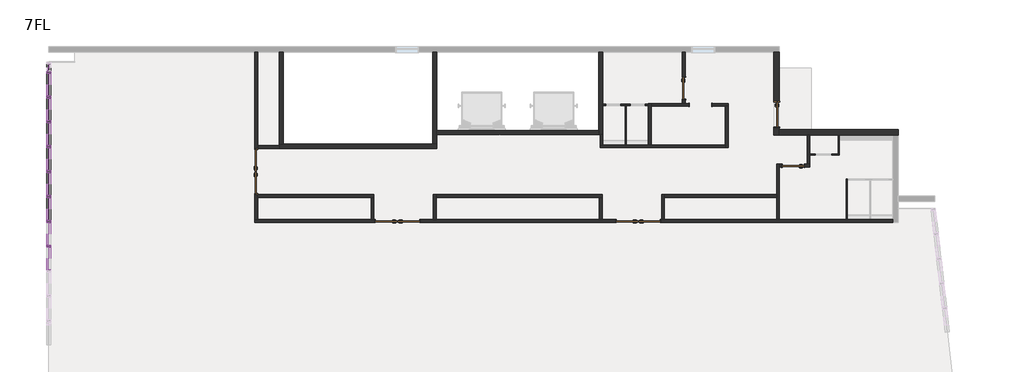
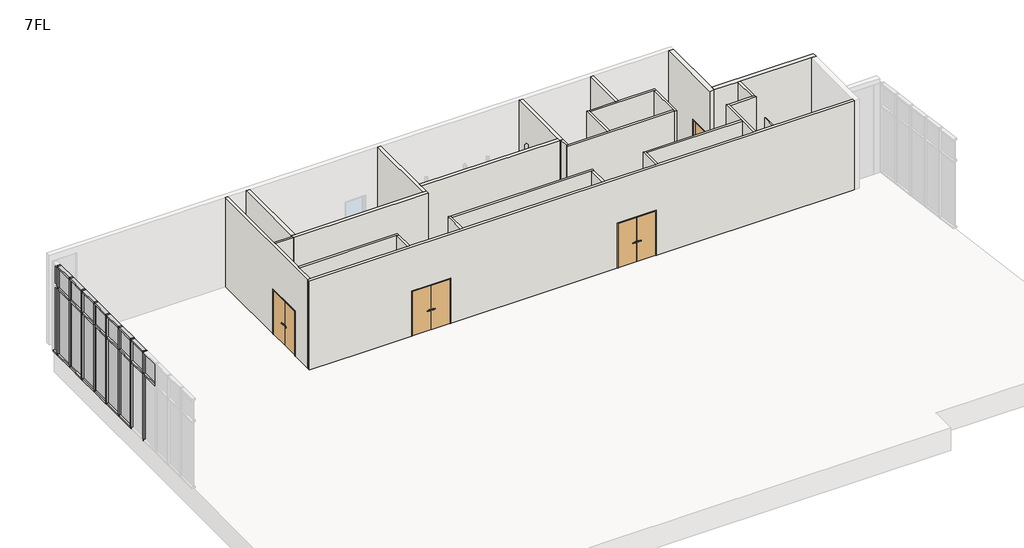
# One storey, part 3 of 4: 38 members, 31 walls, 16 plates, 7 doors.
"""IFC4 building model written with IfcOpenShell, lengths in millimetres."""

from ifc_helpers import new_model, si_unit, frame, origin, place, context, project, spatial, polyline, outline, extrude, faceted_brep, transform, mapped, element, save
from components import door_1de376c6, w800h2000_3f366617, w800h2000_fc627520, w800h2000_d76b1b72, w900h2000_8d150256, member_70x150_cdd4dcf9, member_70x150_66cf63de, member_70x150_26475b18, member_70x150_ad4265bc, member_70x150_a15bb337, plate_28587fd3, plate_396bcf3c, plate_4066ba05, plate_ba683b9a

model = new_model("IFC4")

# Units and contexts
model_context = context("Model", 3, world=origin())
ifc_project = project(units=[si_unit("LENGTHUNIT", "METRE", prefix="MILLI")], contexts=[model_context])

# Site, building, storey
site = spatial("IfcSite", under=ifc_project)
building = spatial("IfcBuilding", under=site)
storey = spatial("IfcBuildingStorey", under=building, Name="7FL", Elevation=24600.0)

# Doors
placement = place(None, origin())
door_shape = door_1de376c6(model_context)
element("IfcDoor", 1, ObjectType="両開き戸 : 両開き：w1600h2000", at=placement, inside=storey, context=model_context, shape_type="MappedRepresentation", body=[
    mapped(door_shape, transform((-21845.9784025, 12245.6585069, 24600.0), x_axis=(0.0, 1.0, 0.0), y_axis=(-1.0, 0.0, 0.0), z_axis=(0.0, 0.0, 1.0))),
])
element("IfcDoor", 2, ObjectType="両開き戸 : 両開き：w1600h2000", at=placement, inside=storey, context=model_context, shape_type="MappedRepresentation", body=[
    mapped(door_shape, transform((-16754.4500107, 10449.6868987, 24600.0), x_axis=(-1.0, 0.0, 0.0), y_axis=(0.0, -1.0, 0.0), z_axis=(0.0, 0.0, 1.0))),
])
element("IfcDoor", 3, ObjectType="両開き戸 : 両開き：w1600h2000", at=placement, inside=storey, context=model_context, shape_type="MappedRepresentation", body=[
    mapped(door_shape, transform((-8054.4500107, 10449.6868987, 24600.0), x_axis=(-1.0, 0.0, 0.0), y_axis=(0.0, -1.0, 0.0), z_axis=(0.0, 0.0, 1.0))),
])
w800h2000_shape = w800h2000_3f366617(model_context)
element("IfcDoor", 4, ObjectType="片開き戸 : w800h2000", at=placement, inside=storey, context=model_context, shape_type="MappedRepresentation", body=[
    mapped(w800h2000_shape, transform((-2445.9784025, 12449.6868987, 24600.0), x_axis=(-1.0, 0.0, 0.0), y_axis=(0.0, -1.0, 0.0), z_axis=(0.0, 0.0, 1.0))),
])
w800h2000_2_shape = w800h2000_fc627520(model_context)
element("IfcDoor", 5, ObjectType="片開き戸 : w800h2000", at=placement, inside=storey, context=model_context, shape_type="MappedRepresentation", body=[
    mapped(w800h2000_2_shape, transform((-6395.9784025, 15249.6868987, 24600.0), x_axis=(0.0, -1.0, 0.0), y_axis=(1.0, 0.0, 0.0), z_axis=(0.0, 0.0, 1.0))),
])
w800h2000_3_shape = w800h2000_d76b1b72(model_context)
element("IfcDoor", 6, ObjectType="開口枠あり : w800h2000", at=placement, inside=storey, context=model_context, shape_type="MappedRepresentation", body=[
    mapped(w800h2000_3_shape, transform((-5795.9784025, 14649.6868987, 24600.0), x_axis=(-1.0, 0.0, 0.0), y_axis=(0.0, -1.0, 0.0), z_axis=(0.0, 0.0, 1.0))),
])
w900h2000_shape = w900h2000_8d150256(model_context)
element("IfcDoor", 7, ObjectType="片開き戸 : w900h2000", at=placement, inside=storey, context=model_context, shape_type="MappedRepresentation", body=[
    mapped(w900h2000_shape, transform((-3045.9784025, 14299.6868987, 24600.0), x_axis=(0.0, -1.0, 0.0), y_axis=(1.0, 0.0, 0.0), z_axis=(0.0, 0.0, 1.0))),
])

# Members
member_70x150_shape = member_70x150_cdd4dcf9(model_context)
element("IfcMember", 8, ObjectType="長方形のマリオン : 70x150", at=placement, inside=storey, context=model_context, shape_type="MappedRepresentation", body=[
    mapped(member_70x150_shape, transform((-29345.9784025, 15834.6868987, 24600.0), x_axis=(0.0, 1.0, 0.0), y_axis=(1.0, 0.0, 0.0), z_axis=(0.0, 0.0, -1.0))),
])
element("IfcMember", 9, ObjectType="長方形のマリオン : 70x150", at=placement, inside=storey, context=model_context, shape_type="MappedRepresentation", body=[
    mapped(member_70x150_shape, transform((-29345.9784025, 14934.6868987, 24600.0), x_axis=(0.0, 1.0, 0.0), y_axis=(1.0, 0.0, 0.0), z_axis=(0.0, 0.0, -1.0))),
])
element("IfcMember", 10, ObjectType="長方形のマリオン : 70x150", at=placement, inside=storey, context=model_context, shape_type="MappedRepresentation", body=[
    mapped(member_70x150_shape, transform((-29345.9784025, 14034.6868987, 24600.0), x_axis=(0.0, 1.0, 0.0), y_axis=(1.0, 0.0, 0.0), z_axis=(0.0, 0.0, -1.0))),
])
element("IfcMember", 11, ObjectType="長方形のマリオン : 70x150", at=placement, inside=storey, context=model_context, shape_type="MappedRepresentation", body=[
    mapped(member_70x150_shape, transform((-29345.9784025, 13134.6868987, 24600.0), x_axis=(0.0, 1.0, 0.0), y_axis=(1.0, 0.0, 0.0), z_axis=(0.0, 0.0, -1.0))),
])
element("IfcMember", 12, ObjectType="長方形のマリオン : 70x150", at=placement, inside=storey, context=model_context, shape_type="MappedRepresentation", body=[
    mapped(member_70x150_shape, transform((-29345.9784025, 12234.6868987, 24600.0), x_axis=(0.0, 1.0, 0.0), y_axis=(1.0, 0.0, 0.0), z_axis=(0.0, 0.0, -1.0))),
])
element("IfcMember", 13, ObjectType="長方形のマリオン : 70x150", at=placement, inside=storey, context=model_context, shape_type="MappedRepresentation", body=[
    mapped(member_70x150_shape, transform((-29345.9784025, 11334.6868987, 24600.0), x_axis=(0.0, 1.0, 0.0), y_axis=(1.0, 0.0, 0.0), z_axis=(0.0, 0.0, -1.0))),
])
element("IfcMember", 14, ObjectType="長方形のマリオン : 70x150", at=placement, inside=storey, context=model_context, shape_type="MappedRepresentation", body=[
    mapped(member_70x150_shape, transform((-29345.9784025, 10434.6868987, 24600.0), x_axis=(0.0, 1.0, 0.0), y_axis=(1.0, 0.0, 0.0), z_axis=(0.0, 0.0, -1.0))),
])
element("IfcMember", 15, ObjectType="長方形のマリオン : 70x150", at=placement, inside=storey, context=model_context, shape_type="MappedRepresentation", body=[
    mapped(member_70x150_shape, transform((-29345.9784025, 9534.6868987, 24600.0), x_axis=(0.0, 1.0, 0.0), y_axis=(1.0, 0.0, 0.0), z_axis=(0.0, 0.0, -1.0))),
])
member_70x150_2_shape = member_70x150_66cf63de(model_context)
element("IfcMember", 16, ObjectType="長方形のマリオン : 70x150", at=placement, inside=storey, context=model_context, shape_type="MappedRepresentation", body=[
    mapped(member_70x150_2_shape, transform((-29345.9784025, 14969.6868987, 24600.0), x_axis=(0.0, 0.0, -1.0), y_axis=(1.0, 0.0, 0.0), z_axis=(0.0, -1.0, 0.0))),
])
element("IfcMember", 17, ObjectType="長方形のマリオン : 70x150", at=placement, inside=storey, context=model_context, shape_type="MappedRepresentation", body=[
    mapped(member_70x150_2_shape, transform((-29345.9784025, 14069.6868987, 24600.0), x_axis=(0.0, 0.0, -1.0), y_axis=(1.0, 0.0, 0.0), z_axis=(0.0, -1.0, 0.0))),
])
element("IfcMember", 18, ObjectType="長方形のマリオン : 70x150", at=placement, inside=storey, context=model_context, shape_type="MappedRepresentation", body=[
    mapped(member_70x150_2_shape, transform((-29345.9784025, 13169.6868987, 24600.0), x_axis=(0.0, 0.0, -1.0), y_axis=(1.0, 0.0, 0.0), z_axis=(0.0, -1.0, 0.0))),
])
element("IfcMember", 19, ObjectType="長方形のマリオン : 70x150", at=placement, inside=storey, context=model_context, shape_type="MappedRepresentation", body=[
    mapped(member_70x150_2_shape, transform((-29345.9784025, 12269.6868987, 24600.0), x_axis=(0.0, 0.0, -1.0), y_axis=(1.0, 0.0, 0.0), z_axis=(0.0, -1.0, 0.0))),
])
element("IfcMember", 20, ObjectType="長方形のマリオン : 70x150", at=placement, inside=storey, context=model_context, shape_type="MappedRepresentation", body=[
    mapped(member_70x150_2_shape, transform((-29345.9784025, 11369.6868987, 24600.0), x_axis=(0.0, 0.0, -1.0), y_axis=(1.0, 0.0, 0.0), z_axis=(0.0, -1.0, 0.0))),
])
element("IfcMember", 21, ObjectType="長方形のマリオン : 70x150", at=placement, inside=storey, context=model_context, shape_type="MappedRepresentation", body=[
    mapped(member_70x150_2_shape, transform((-29345.9784025, 10469.6868987, 24600.0), x_axis=(0.0, 0.0, -1.0), y_axis=(1.0, 0.0, 0.0), z_axis=(0.0, -1.0, 0.0))),
])
element("IfcMember", 22, ObjectType="長方形のマリオン : 70x150", at=placement, inside=storey, context=model_context, shape_type="MappedRepresentation", body=[
    mapped(member_70x150_2_shape, transform((-29345.9784025, 15799.6868987, 28600.0), x_axis=(0.0, 0.0, 1.0), y_axis=(1.0, 0.0, 0.0), z_axis=(0.0, 1.0, 0.0))),
])
element("IfcMember", 23, ObjectType="長方形のマリオン : 70x150", at=placement, inside=storey, context=model_context, shape_type="MappedRepresentation", body=[
    mapped(member_70x150_2_shape, transform((-29345.9784025, 14899.6868987, 28600.0), x_axis=(0.0, 0.0, 1.0), y_axis=(1.0, 0.0, 0.0), z_axis=(0.0, 1.0, 0.0))),
])
element("IfcMember", 24, ObjectType="長方形のマリオン : 70x150", at=placement, inside=storey, context=model_context, shape_type="MappedRepresentation", body=[
    mapped(member_70x150_2_shape, transform((-29345.9784025, 13999.6868987, 28600.0), x_axis=(0.0, 0.0, 1.0), y_axis=(1.0, 0.0, 0.0), z_axis=(0.0, 1.0, 0.0))),
])
element("IfcMember", 25, ObjectType="長方形のマリオン : 70x150", at=placement, inside=storey, context=model_context, shape_type="MappedRepresentation", body=[
    mapped(member_70x150_2_shape, transform((-29345.9784025, 13099.6868987, 28600.0), x_axis=(0.0, 0.0, 1.0), y_axis=(1.0, 0.0, 0.0), z_axis=(0.0, 1.0, 0.0))),
])
element("IfcMember", 26, ObjectType="長方形のマリオン : 70x150", at=placement, inside=storey, context=model_context, shape_type="MappedRepresentation", body=[
    mapped(member_70x150_2_shape, transform((-29345.9784025, 12199.6868987, 28600.0), x_axis=(0.0, 0.0, 1.0), y_axis=(1.0, 0.0, 0.0), z_axis=(0.0, 1.0, 0.0))),
])
element("IfcMember", 27, ObjectType="長方形のマリオン : 70x150", at=placement, inside=storey, context=model_context, shape_type="MappedRepresentation", body=[
    mapped(member_70x150_2_shape, transform((-29345.9784025, 11299.6868987, 28600.0), x_axis=(0.0, 0.0, 1.0), y_axis=(1.0, 0.0, 0.0), z_axis=(0.0, 1.0, 0.0))),
])
element("IfcMember", 28, ObjectType="長方形のマリオン : 70x150", at=placement, inside=storey, context=model_context, shape_type="MappedRepresentation", body=[
    mapped(member_70x150_2_shape, transform((-29345.9784025, 10399.6868987, 28600.0), x_axis=(0.0, 0.0, 1.0), y_axis=(1.0, 0.0, 0.0), z_axis=(0.0, 1.0, 0.0))),
])
member_70x150_3_shape = member_70x150_26475b18(model_context)
element("IfcMember", 29, ObjectType="長方形のマリオン : 70x150", at=placement, inside=storey, context=model_context, shape_type="MappedRepresentation", body=[
    mapped(member_70x150_3_shape, transform((-29345.9784025, 15834.6868987, 27600.0), x_axis=(0.0, 1.0, 0.0), y_axis=(1.0, 0.0, 0.0), z_axis=(0.0, 0.0, -1.0))),
])
element("IfcMember", 30, ObjectType="長方形のマリオン : 70x150", at=placement, inside=storey, context=model_context, shape_type="MappedRepresentation", body=[
    mapped(member_70x150_3_shape, transform((-29345.9784025, 14934.6868987, 27600.0), x_axis=(0.0, 1.0, 0.0), y_axis=(1.0, 0.0, 0.0), z_axis=(0.0, 0.0, -1.0))),
])
element("IfcMember", 31, ObjectType="長方形のマリオン : 70x150", at=placement, inside=storey, context=model_context, shape_type="MappedRepresentation", body=[
    mapped(member_70x150_3_shape, transform((-29345.9784025, 14034.6868987, 27600.0), x_axis=(0.0, 1.0, 0.0), y_axis=(1.0, 0.0, 0.0), z_axis=(0.0, 0.0, -1.0))),
])
element("IfcMember", 32, ObjectType="長方形のマリオン : 70x150", at=placement, inside=storey, context=model_context, shape_type="MappedRepresentation", body=[
    mapped(member_70x150_3_shape, transform((-29345.9784025, 13134.6868987, 27600.0), x_axis=(0.0, 1.0, 0.0), y_axis=(1.0, 0.0, 0.0), z_axis=(0.0, 0.0, -1.0))),
])
element("IfcMember", 33, ObjectType="長方形のマリオン : 70x150", at=placement, inside=storey, context=model_context, shape_type="MappedRepresentation", body=[
    mapped(member_70x150_3_shape, transform((-29345.9784025, 12234.6868987, 27600.0), x_axis=(0.0, 1.0, 0.0), y_axis=(1.0, 0.0, 0.0), z_axis=(0.0, 0.0, -1.0))),
])
element("IfcMember", 34, ObjectType="長方形のマリオン : 70x150", at=placement, inside=storey, context=model_context, shape_type="MappedRepresentation", body=[
    mapped(member_70x150_3_shape, transform((-29345.9784025, 11334.6868987, 27600.0), x_axis=(0.0, 1.0, 0.0), y_axis=(1.0, 0.0, 0.0), z_axis=(0.0, 0.0, -1.0))),
])
element("IfcMember", 35, ObjectType="長方形のマリオン : 70x150", at=placement, inside=storey, context=model_context, shape_type="MappedRepresentation", body=[
    mapped(member_70x150_3_shape, transform((-29345.9784025, 10434.6868987, 27600.0), x_axis=(0.0, 1.0, 0.0), y_axis=(1.0, 0.0, 0.0), z_axis=(0.0, 0.0, -1.0))),
])
element("IfcMember", 36, ObjectType="長方形のマリオン : 70x150", at=placement, inside=storey, context=model_context, shape_type="MappedRepresentation", body=[
    mapped(member_70x150_3_shape, transform((-29345.9784025, 9534.6868987, 27600.0), x_axis=(0.0, 1.0, 0.0), y_axis=(1.0, 0.0, 0.0), z_axis=(0.0, 0.0, -1.0))),
])
member_70x150_4_shape = member_70x150_ad4265bc(model_context)
element("IfcMember", 37, ObjectType="長方形のマリオン : 70x150", at=placement, inside=storey, context=model_context, shape_type="MappedRepresentation", body=[
    mapped(member_70x150_4_shape, transform((-29345.9784025, 12199.6868987, 27600.0), x_axis=(0.0, 0.0, 1.0), y_axis=(1.0, 0.0, 0.0), z_axis=(0.0, 1.0, 0.0))),
])
element("IfcMember", 38, ObjectType="長方形のマリオン : 70x150", at=placement, inside=storey, context=model_context, shape_type="MappedRepresentation", body=[
    mapped(member_70x150_4_shape, transform((-29345.9784025, 9499.6868987, 27600.0), x_axis=(0.0, 0.0, 1.0), y_axis=(1.0, 0.0, 0.0), z_axis=(0.0, 1.0, 0.0))),
])
element("IfcMember", 39, ObjectType="長方形のマリオン : 70x150", at=placement, inside=storey, context=model_context, shape_type="MappedRepresentation", body=[
    mapped(member_70x150_4_shape, transform((-29345.9784025, 10399.6868987, 27600.0), x_axis=(0.0, 0.0, 1.0), y_axis=(1.0, 0.0, 0.0), z_axis=(0.0, 1.0, 0.0))),
])
element("IfcMember", 40, ObjectType="長方形のマリオン : 70x150", at=placement, inside=storey, context=model_context, shape_type="MappedRepresentation", body=[
    mapped(member_70x150_4_shape, transform((-29345.9784025, 13099.6868987, 27600.0), x_axis=(0.0, 0.0, 1.0), y_axis=(1.0, 0.0, 0.0), z_axis=(0.0, 1.0, 0.0))),
])
element("IfcMember", 41, ObjectType="長方形のマリオン : 70x150", at=placement, inside=storey, context=model_context, shape_type="MappedRepresentation", body=[
    mapped(member_70x150_4_shape, transform((-29345.9784025, 13999.6868987, 27600.0), x_axis=(0.0, 0.0, 1.0), y_axis=(1.0, 0.0, 0.0), z_axis=(0.0, 1.0, 0.0))),
])
element("IfcMember", 42, ObjectType="長方形のマリオン : 70x150", at=placement, inside=storey, context=model_context, shape_type="MappedRepresentation", body=[
    mapped(member_70x150_4_shape, transform((-29345.9784025, 11299.6868987, 27600.0), x_axis=(0.0, 0.0, 1.0), y_axis=(1.0, 0.0, 0.0), z_axis=(0.0, 1.0, 0.0))),
])
element("IfcMember", 43, ObjectType="長方形のマリオン : 70x150", at=placement, inside=storey, context=model_context, shape_type="MappedRepresentation", body=[
    mapped(member_70x150_4_shape, transform((-29345.9784025, 15799.6868987, 27600.0), x_axis=(0.0, 0.0, 1.0), y_axis=(1.0, 0.0, 0.0), z_axis=(0.0, 1.0, 0.0))),
])
element("IfcMember", 44, ObjectType="長方形のマリオン : 70x150", at=placement, inside=storey, context=model_context, shape_type="MappedRepresentation", body=[
    mapped(member_70x150_4_shape, transform((-29345.9784025, 14899.6868987, 27600.0), x_axis=(0.0, 0.0, 1.0), y_axis=(1.0, 0.0, 0.0), z_axis=(0.0, 1.0, 0.0))),
])
member_70x150_5_shape = member_70x150_a15bb337(model_context)
element("IfcMember", 45, ObjectType="長方形のマリオン : 70x150", at=placement, inside=storey, context=model_context, shape_type="MappedRepresentation", body=[
    mapped(member_70x150_5_shape, transform((-29345.9784025, 15869.6868987, 24600.0), x_axis=(0.0, 0.0, -1.0), y_axis=(1.0, 0.0, 0.0), z_axis=(0.0, -1.0, 0.0))),
])

# Plates
plate_shape = plate_28587fd3(model_context)
element("IfcPlate", 46, ObjectType="システム パネル : 標準", at=placement, inside=storey, context=model_context, shape_type="MappedRepresentation", body=[
    mapped(plate_shape, transform((-29345.9784025, 10884.6868987, 24670.0), x_axis=(0.0, 1.0, 0.0), y_axis=(-1.0, 0.0, 0.0), z_axis=(0.0, 0.0, 1.0))),
])
element("IfcPlate", 47, ObjectType="システム パネル : 標準", at=placement, inside=storey, context=model_context, shape_type="MappedRepresentation", body=[
    mapped(plate_shape, transform((-29345.9784025, 11784.6868987, 24670.0), x_axis=(0.0, 1.0, 0.0), y_axis=(-1.0, 0.0, 0.0), z_axis=(0.0, 0.0, 1.0))),
])
element("IfcPlate", 48, ObjectType="システム パネル : 標準", at=placement, inside=storey, context=model_context, shape_type="MappedRepresentation", body=[
    mapped(plate_shape, transform((-29345.9784025, 12684.6868987, 24670.0), x_axis=(0.0, 1.0, 0.0), y_axis=(-1.0, 0.0, 0.0), z_axis=(0.0, 0.0, 1.0))),
])
element("IfcPlate", 49, ObjectType="システム パネル : 標準", at=placement, inside=storey, context=model_context, shape_type="MappedRepresentation", body=[
    mapped(plate_shape, transform((-29345.9784025, 13584.6868987, 24670.0), x_axis=(0.0, 1.0, 0.0), y_axis=(-1.0, 0.0, 0.0), z_axis=(0.0, 0.0, 1.0))),
])
element("IfcPlate", 50, ObjectType="システム パネル : 標準", at=placement, inside=storey, context=model_context, shape_type="MappedRepresentation", body=[
    mapped(plate_shape, transform((-29345.9784025, 14484.6868987, 24670.0), x_axis=(0.0, 1.0, 0.0), y_axis=(-1.0, 0.0, 0.0), z_axis=(0.0, 0.0, 1.0))),
])
element("IfcPlate", 51, ObjectType="システム パネル : 標準", at=placement, inside=storey, context=model_context, shape_type="MappedRepresentation", body=[
    mapped(plate_shape, transform((-29345.9784025, 15384.6868987, 24670.0), x_axis=(0.0, 1.0, 0.0), y_axis=(-1.0, 0.0, 0.0), z_axis=(0.0, 0.0, 1.0))),
])
plate_2_shape = plate_396bcf3c(model_context)
element("IfcPlate", 52, ObjectType="システム パネル : 標準", at=placement, inside=storey, context=model_context, shape_type="MappedRepresentation", body=[
    mapped(plate_2_shape, transform((-29345.9784025, 9084.6868987, 27635.0), x_axis=(0.0, 1.0, 0.0), y_axis=(-1.0, 0.0, 0.0), z_axis=(0.0, 0.0, 1.0))),
])
element("IfcPlate", 53, ObjectType="システム パネル : 標準", at=placement, inside=storey, context=model_context, shape_type="MappedRepresentation", body=[
    mapped(plate_2_shape, transform((-29345.9784025, 9984.6868987, 27635.0), x_axis=(0.0, 1.0, 0.0), y_axis=(-1.0, 0.0, 0.0), z_axis=(0.0, 0.0, 1.0))),
])
element("IfcPlate", 54, ObjectType="システム パネル : 標準", at=placement, inside=storey, context=model_context, shape_type="MappedRepresentation", body=[
    mapped(plate_2_shape, transform((-29345.9784025, 10884.6868987, 27635.0), x_axis=(0.0, 1.0, 0.0), y_axis=(-1.0, 0.0, 0.0), z_axis=(0.0, 0.0, 1.0))),
])
element("IfcPlate", 55, ObjectType="システム パネル : 標準", at=placement, inside=storey, context=model_context, shape_type="MappedRepresentation", body=[
    mapped(plate_2_shape, transform((-29345.9784025, 11784.6868987, 27635.0), x_axis=(0.0, 1.0, 0.0), y_axis=(-1.0, 0.0, 0.0), z_axis=(0.0, 0.0, 1.0))),
])
element("IfcPlate", 56, ObjectType="システム パネル : 標準", at=placement, inside=storey, context=model_context, shape_type="MappedRepresentation", body=[
    mapped(plate_2_shape, transform((-29345.9784025, 12684.6868987, 27635.0), x_axis=(0.0, 1.0, 0.0), y_axis=(-1.0, 0.0, 0.0), z_axis=(0.0, 0.0, 1.0))),
])
element("IfcPlate", 57, ObjectType="システム パネル : 標準", at=placement, inside=storey, context=model_context, shape_type="MappedRepresentation", body=[
    mapped(plate_2_shape, transform((-29345.9784025, 13584.6868987, 27635.0), x_axis=(0.0, 1.0, 0.0), y_axis=(-1.0, 0.0, 0.0), z_axis=(0.0, 0.0, 1.0))),
])
element("IfcPlate", 58, ObjectType="システム パネル : 標準", at=placement, inside=storey, context=model_context, shape_type="MappedRepresentation", body=[
    mapped(plate_2_shape, transform((-29345.9784025, 14484.6868987, 27635.0), x_axis=(0.0, 1.0, 0.0), y_axis=(-1.0, 0.0, 0.0), z_axis=(0.0, 0.0, 1.0))),
])
element("IfcPlate", 59, ObjectType="システム パネル : 標準", at=placement, inside=storey, context=model_context, shape_type="MappedRepresentation", body=[
    mapped(plate_2_shape, transform((-29345.9784025, 15384.6868987, 27635.0), x_axis=(0.0, 1.0, 0.0), y_axis=(-1.0, 0.0, 0.0), z_axis=(0.0, 0.0, 1.0))),
])
plate_3_shape = plate_4066ba05(model_context)
element("IfcPlate", 60, ObjectType="システム パネル : 標準", at=placement, inside=storey, context=model_context, shape_type="MappedRepresentation", body=[
    mapped(plate_3_shape, transform((-29345.9784025, 15999.6868987, 24670.0), x_axis=(0.0, 1.0, 0.0), y_axis=(-1.0, 0.0, 0.0), z_axis=(0.0, 0.0, 1.0))),
])
plate_4_shape = plate_ba683b9a(model_context)
element("IfcPlate", 61, ObjectType="システム パネル : 標準", at=placement, inside=storey, context=model_context, shape_type="MappedRepresentation", body=[
    mapped(plate_4_shape, transform((-29345.9784025, 15999.6868987, 27635.0), x_axis=(0.0, 1.0, 0.0), y_axis=(-1.0, 0.0, 0.0), z_axis=(0.0, 0.0, 1.0))),
])

# Walls
element("IfcWall", 62, ObjectType="標準200", at=placement, inside=storey, context=model_context, shape_type="Brep", body=[
    faceted_brep([(-3145.9784025, 16549.6868987, 24600.0), (-3145.9784025, 14774.6868987, 24600.0), (-3145.9784025, 14774.6868987, 26625.0), (-3145.9784025, 13824.6868987, 26625.0), (-3145.9784025, 13824.6868987, 24600.0), (-3145.9784025, 13549.6868987, 24600.0), (-3145.9784025, 13549.6868987, 28600.0), (-3145.9784025, 16549.6868987, 28600.0), (-2945.9784025, 14774.6868987, 26625.0), (-2945.9784025, 14774.6868987, 24600.0), (-2945.9784025, 16549.6868987, 24600.0), (-2945.9784025, 16549.6868987, 28600.0), (-2945.9784025, 13749.6868987, 28600.0), (-2945.9784025, 13549.6868987, 28600.0), (-2945.9784025, 13549.6868987, 24600.0), (-2945.9784025, 13749.6868987, 24600.0), (-2945.9784025, 13824.6868987, 24600.0), (-2945.9784025, 13824.6868987, 26625.0)], [[[0, 1, 2, 3, 4, 5, 6, 7]], [[8, 9, 10, 11, 12, 13, 14, 15, 16, 17]], [[10, 9, 1, 0]], [[16, 15, 14, 5, 4]], [[7, 6, 13, 12, 11]], [[0, 7, 11, 10]], [[6, 5, 14, 13]], [[4, 3, 17, 16]], [[2, 1, 9, 8]], [[3, 2, 8, 17]]]),
])
element("IfcWall", 63, ObjectType="標準200", at=placement, inside=storey, context=model_context, shape_type="Brep", body=[
    faceted_brep([(-2945.9784025, 13549.6868987, 24600.0), (-1945.9784025, 13549.6868987, 24600.0), (-1845.9784025, 13549.6868987, 24600.0), (-815.9784025, 13549.6868987, 24600.0), (-775.9784025, 13549.6868987, 24600.0), (1154.0215975, 13549.6868987, 24600.0), (1354.0215975, 13549.6868987, 24600.0), (1354.0215975, 13549.6868987, 28600.0), (1154.0215975, 13549.6868987, 28600.0), (-1845.9784025, 13549.6868987, 28600.0), (-1945.9784025, 13549.6868987, 28600.0), (-2945.9784025, 13549.6868987, 28600.0), (-2945.9784025, 13749.6868987, 24600.0), (-2945.9784025, 13749.6868987, 28600.0), (1354.0215975, 13749.6868987, 28600.0), (1354.0215975, 13749.6868987, 24600.0)], [[[0, 1, 2, 3, 4, 5, 6, 7, 8, 9, 10, 11]], [[12, 13, 14, 15]], [[6, 5, 4, 3, 2, 1, 0, 12, 15]], [[11, 10, 9, 8, 7, 14, 13]], [[0, 11, 13, 12]], [[7, 6, 15, 14]]]),
])
element("IfcWall", 64, ObjectType="標準150", at=placement, inside=storey, context=model_context, shape_type="Brep", body=[
    faceted_brep([(-9470.9784025, 16549.6868987, 24600.0), (-9470.9784025, 13724.6868987, 24600.0), (-9470.9784025, 13574.6868987, 24600.0), (-9470.9784025, 13574.6868987, 28600.0), (-9470.9784025, 13724.6868987, 28600.0), (-9470.9784025, 16549.6868987, 28600.0), (-9320.9784025, 16549.6868987, 24600.0), (-9320.9784025, 16549.6868987, 28600.0), (-9320.9784025, 13574.6868987, 28600.0), (-9320.9784025, 13574.6868987, 24600.0), (-9320.9784025, 14629.6868987, 24600.0), (-9320.9784025, 14669.6868987, 24600.0), (-9420.9784025, 13574.6868987, 24600.0), (-9420.9784025, 13574.6868987, 28600.0)], [[[0, 1, 2, 3, 4, 5]], [[6, 7, 8, 9, 10, 11]], [[2, 1, 0, 6, 11, 10, 9, 12]], [[5, 4, 3, 13, 8, 7]], [[0, 5, 7, 6]], [[3, 2, 12, 9, 8, 13]]]),
])
element("IfcWall", 65, ObjectType="標準150", at=placement, inside=storey, context=model_context, shape_type="SweptSolid", body=[
    extrude(outline(polyline([(-15320.9784025, 13724.6868987), (-9470.9784025, 13724.6868987), (-9470.9784025, 13574.6868987), (-15320.9784025, 13574.6868987), (-15320.9784025, 13724.6868987)])), frame((0.0, 0.0, 24600.0), z_axis=(0.0, 0.0, 1.0), x_axis=(1.0, 0.0, 0.0)), (0.0, 0.0, 1.0), 4000.0),
])
element("IfcWall", 66, ObjectType="標準150", at=placement, inside=storey, context=model_context, shape_type="Brep", body=[
    faceted_brep([(-15320.9784025, 13224.6868987, 24600.0), (-15320.9784025, 13574.6868987, 24600.0), (-15320.9784025, 13724.6868987, 24600.0), (-15320.9784025, 16549.6868987, 24600.0), (-15320.9784025, 16549.6868987, 28600.0), (-15320.9784025, 13724.6868987, 28600.0), (-15320.9784025, 13574.6868987, 28600.0), (-15320.9784025, 13224.6868987, 28600.0), (-15470.9784025, 13224.6868987, 24600.0), (-15470.9784025, 13224.6868987, 28600.0), (-15470.9784025, 16549.6868987, 28600.0), (-15470.9784025, 16549.6868987, 24600.0)], [[[0, 1, 2, 3, 4, 5, 6, 7]], [[8, 9, 10, 11]], [[3, 2, 1, 0, 8, 11]], [[7, 6, 5, 4, 10, 9]], [[4, 3, 11, 10]], [[0, 7, 9, 8]]]),
])
element("IfcWall", 67, ObjectType="標準150", at=placement, inside=storey, context=model_context, shape_type="Brep", body=[
    faceted_brep([(-15320.9784025, 13224.6868987, 24600.0), (-15470.9784025, 13224.6868987, 24600.0), (-20870.9784025, 13224.6868987, 24600.0), (-21020.9784025, 13224.6868987, 24600.0), (-21020.9784025, 13224.6868987, 28600.0), (-20870.9784025, 13224.6868987, 28600.0), (-15470.9784025, 13224.6868987, 28600.0), (-15320.9784025, 13224.6868987, 28600.0), (-15320.9784025, 13074.6868987, 24600.0), (-15320.9784025, 13074.6868987, 28600.0), (-21020.9784025, 13074.6868987, 28600.0), (-21020.9784025, 13074.6868987, 24600.0), (-21020.9784025, 13174.6868987, 24600.0), (-21020.9784025, 13174.6868987, 28600.0)], [[[0, 1, 2, 3, 4, 5, 6, 7]], [[8, 9, 10, 11]], [[3, 2, 1, 0, 8, 11, 12]], [[7, 6, 5, 4, 13, 10, 9]], [[4, 3, 12, 11, 10, 13]], [[0, 7, 9, 8]]]),
])
element("IfcWall", 68, ObjectType="標準150", at=placement, inside=storey, context=model_context, shape_type="SweptSolid", body=[
    extrude(outline(polyline([(-20870.9784025, 16549.6868987), (-20870.9784025, 13224.6868987), (-21020.9784025, 13224.6868987), (-21020.9784025, 16549.6868987), (-20870.9784025, 16549.6868987)])), frame((0.0, 0.0, 24600.0), z_axis=(0.0, 0.0, 1.0), x_axis=(1.0, 0.0, 0.0)), (0.0, 0.0, 1.0), 4000.0),
])
element("IfcWall", 69, ObjectType="標準100", at=placement, inside=storey, context=model_context, shape_type="Brep", body=[
    faceted_brep([(1154.0215975, 10499.6868987, 24600.0), (354.0215975, 10499.6868987, 24600.0), (314.0215975, 10499.6868987, 24600.0), (-485.9784025, 10499.6868987, 24600.0), (-525.9784025, 10499.6868987, 24600.0), (-2945.9784025, 10499.6868987, 24600.0), (-3045.9784025, 10499.6868987, 24600.0), (-7095.9784025, 10499.6868987, 24600.0), (-7195.9784025, 10499.6868987, 24600.0), (-7220.9784025, 10499.6868987, 24600.0), (-7220.9784025, 10499.6868987, 26625.0), (-8870.9784025, 10499.6868987, 26625.0), (-8870.9784025, 10499.6868987, 24600.0), (-9345.9784025, 10499.6868987, 24600.0), (-9445.9784025, 10499.6868987, 24600.0), (-15345.9784025, 10499.6868987, 24600.0), (-15445.9784025, 10499.6868987, 24600.0), (-15920.9784025, 10499.6868987, 24600.0), (-15920.9784025, 10499.6868987, 26625.0), (-17570.9784025, 10499.6868987, 26625.0), (-17570.9784025, 10499.6868987, 24600.0), (-17595.9784025, 10499.6868987, 24600.0), (-17695.9784025, 10499.6868987, 24600.0), (-21795.9784025, 10499.6868987, 24600.0), (-21895.9784025, 10499.6868987, 24600.0), (-21895.9784025, 10499.6868987, 28600.0), (-21795.9784025, 10499.6868987, 28600.0), (-17695.9784025, 10499.6868987, 28600.0), (-17595.9784025, 10499.6868987, 28600.0), (-15445.9784025, 10499.6868987, 28600.0), (-15345.9784025, 10499.6868987, 28600.0), (-9445.9784025, 10499.6868987, 28600.0), (-9345.9784025, 10499.6868987, 28600.0), (-7195.9784025, 10499.6868987, 28600.0), (-7095.9784025, 10499.6868987, 28600.0), (-3045.9784025, 10499.6868987, 28600.0), (-2945.9784025, 10499.6868987, 28600.0), (1154.0215975, 10499.6868987, 28600.0), (-7220.9784025, 10399.6868987, 26625.0), (-7220.9784025, 10399.6868987, 24600.0), (1154.0215975, 10399.6868987, 24600.0), (1154.0215975, 10399.6868987, 28600.0), (-21895.9784025, 10399.6868987, 28600.0), (-21895.9784025, 10399.6868987, 24600.0), (-17570.9784025, 10399.6868987, 24600.0), (-17570.9784025, 10399.6868987, 26625.0), (-15920.9784025, 10399.6868987, 26625.0), (-15920.9784025, 10399.6868987, 24600.0), (-8870.9784025, 10399.6868987, 24600.0), (-8870.9784025, 10399.6868987, 26625.0)], [[[0, 1, 2, 3, 4, 5, 6, 7, 8, 9, 10, 11, 12, 13, 14, 15, 16, 17, 18, 19, 20, 21, 22, 23, 24, 25, 26, 27, 28, 29, 30, 31, 32, 33, 34, 35, 36, 37]], [[38, 39, 40, 41, 42, 43, 44, 45, 46, 47, 48, 49]], [[44, 43, 24, 23, 22, 21, 20]], [[48, 47, 17, 16, 15, 14, 13, 12]], [[40, 39, 9, 8, 7, 6, 5, 4, 3, 2, 1, 0]], [[37, 36, 35, 34, 33, 32, 31, 30, 29, 28, 27, 26, 25, 42, 41]], [[25, 24, 43, 42]], [[0, 37, 41, 40]], [[20, 19, 45, 44]], [[18, 17, 47, 46]], [[19, 18, 46, 45]], [[12, 11, 49, 48]], [[10, 9, 39, 38]], [[11, 10, 38, 49]]]),
])
element("IfcWall", 70, ObjectType="標準100", at=placement, inside=storey, context=model_context, shape_type="Brep", body=[
    faceted_brep([(-21795.9784025, 10499.6868987, 24600.0), (-21795.9784025, 11299.6868987, 24600.0), (-21795.9784025, 11399.6868987, 24600.0), (-21795.9784025, 11412.1868987, 24600.0), (-21795.9784025, 11412.1868987, 26625.0), (-21795.9784025, 13062.1868987, 26625.0), (-21795.9784025, 13062.1868987, 24600.0), (-21795.9784025, 13074.6868987, 24600.0), (-21795.9784025, 13174.6868987, 24600.0), (-21795.9784025, 16549.6868987, 24600.0), (-21795.9784025, 16549.6868987, 28600.0), (-21795.9784025, 13174.6868987, 28600.0), (-21795.9784025, 13074.6868987, 28600.0), (-21795.9784025, 11399.6868987, 28600.0), (-21795.9784025, 11299.6868987, 28600.0), (-21795.9784025, 10499.6868987, 28600.0), (-21895.9784025, 11412.1868987, 26625.0), (-21895.9784025, 11412.1868987, 24600.0), (-21895.9784025, 10499.6868987, 24600.0), (-21895.9784025, 10499.6868987, 28600.0), (-21895.9784025, 16549.6868987, 28600.0), (-21895.9784025, 16549.6868987, 24600.0), (-21895.9784025, 13062.1868987, 24600.0), (-21895.9784025, 13062.1868987, 26625.0)], [[[0, 1, 2, 3, 4, 5, 6, 7, 8, 9, 10, 11, 12, 13, 14, 15]], [[16, 17, 18, 19, 20, 21, 22, 23]], [[22, 21, 9, 8, 7, 6]], [[18, 17, 3, 2, 1, 0]], [[15, 14, 13, 12, 11, 10, 20, 19]], [[0, 15, 19, 18]], [[10, 9, 21, 20]], [[6, 5, 23, 22]], [[4, 3, 17, 16]], [[5, 4, 16, 23]]]),
])
element("IfcWall", 71, ObjectType="標準100", at=placement, inside=storey, context=model_context, shape_type="Brep", body=[
    faceted_brep([(-2945.9784025, 10499.6868987, 24600.0), (-2945.9784025, 12399.6868987, 24600.0), (-2945.9784025, 12499.6868987, 24600.0), (-2945.9784025, 12499.6868987, 28600.0), (-2945.9784025, 12399.6868987, 28600.0), (-2945.9784025, 10499.6868987, 28600.0), (-3045.9784025, 10499.6868987, 24600.0), (-3045.9784025, 10499.6868987, 28600.0), (-3045.9784025, 11299.6868987, 28600.0), (-3045.9784025, 11399.6868987, 28600.0), (-3045.9784025, 12499.6868987, 28600.0), (-3045.9784025, 12499.6868987, 24600.0), (-3045.9784025, 11399.6868987, 24600.0), (-3045.9784025, 11299.6868987, 24600.0)], [[[0, 1, 2, 3, 4, 5]], [[6, 7, 8, 9, 10, 11, 12, 13]], [[2, 1, 0, 6, 13, 12, 11]], [[5, 4, 3, 10, 9, 8, 7]], [[0, 5, 7, 6]], [[3, 2, 11, 10]]]),
])
element("IfcWall", 72, ObjectType="標準100", at=placement, inside=storey, context=model_context, shape_type="Brep", body=[
    faceted_brep([(-7095.9784025, 10499.6868987, 24600.0), (-7095.9784025, 11299.6868987, 24600.0), (-7095.9784025, 11399.6868987, 24600.0), (-7095.9784025, 11399.6868987, 28600.0), (-7095.9784025, 11299.6868987, 28600.0), (-7095.9784025, 10499.6868987, 28600.0), (-7195.9784025, 10499.6868987, 24600.0), (-7195.9784025, 10499.6868987, 28600.0), (-7195.9784025, 11399.6868987, 28600.0), (-7195.9784025, 11399.6868987, 24600.0)], [[[0, 1, 2, 3, 4, 5]], [[6, 7, 8, 9]], [[2, 1, 0, 6, 9]], [[5, 4, 3, 8, 7]], [[0, 5, 7, 6]], [[3, 2, 9, 8]]]),
])
element("IfcWall", 73, ObjectType="標準100", at=placement, inside=storey, context=model_context, shape_type="SweptSolid", body=[
    extrude(outline(polyline([(-3045.9784025, 11299.6868987), (-7095.9784025, 11299.6868987), (-7095.9784025, 11399.6868987), (-3045.9784025, 11399.6868987), (-3045.9784025, 11299.6868987)])), frame((0.0, 0.0, 24600.0), z_axis=(0.0, 0.0, 1.0), x_axis=(1.0, 0.0, 0.0)), (0.0, 0.0, 1.0), 4000.0),
])
element("IfcWall", 74, ObjectType="標準100", at=placement, inside=storey, context=model_context, shape_type="Brep", body=[
    faceted_brep([(-15345.9784025, 10499.6868987, 24600.0), (-15345.9784025, 11299.6868987, 24600.0), (-15345.9784025, 11399.6868987, 24600.0), (-15345.9784025, 11399.6868987, 28600.0), (-15345.9784025, 11299.6868987, 28600.0), (-15345.9784025, 10499.6868987, 28600.0), (-15445.9784025, 10499.6868987, 24600.0), (-15445.9784025, 10499.6868987, 28600.0), (-15445.9784025, 11299.6868987, 28600.0), (-15445.9784025, 11349.6868987, 28600.0), (-15445.9784025, 11399.6868987, 28600.0), (-15445.9784025, 11399.6868987, 24600.0)], [[[0, 1, 2, 3, 4, 5]], [[6, 7, 8, 9, 10, 11]], [[2, 1, 0, 6, 11]], [[5, 4, 3, 10, 9, 8, 7]], [[0, 5, 7, 6]], [[3, 2, 11, 10]]]),
])
element("IfcWall", 75, ObjectType="標準100", at=placement, inside=storey, context=model_context, shape_type="Brep", body=[
    faceted_brep([(-15345.9784025, 11299.6868987, 24600.0), (-9445.9784025, 11299.6868987, 24600.0), (-9345.9784025, 11299.6868987, 24600.0), (-9345.9784025, 11299.6868987, 28600.0), (-9445.9784025, 11299.6868987, 28600.0), (-15345.9784025, 11299.6868987, 28600.0), (-15345.9784025, 11399.6868987, 24600.0), (-15345.9784025, 11399.6868987, 28600.0), (-9345.9784025, 11399.6868987, 28600.0), (-9345.9784025, 11399.6868987, 24600.0), (-9345.9784025, 11349.6868987, 28600.0)], [[[0, 1, 2, 3, 4, 5]], [[6, 7, 8, 9]], [[2, 1, 0, 6, 9]], [[5, 4, 3, 10, 8, 7]], [[0, 5, 7, 6]], [[3, 2, 9, 8, 10]]]),
])
element("IfcWall", 76, ObjectType="標準100", at=placement, inside=storey, context=model_context, shape_type="SweptSolid", body=[
    extrude(outline(polyline([(-9445.9784025, 10499.6868987), (-9445.9784025, 11299.6868987), (-9345.9784025, 11299.6868987), (-9345.9784025, 10499.6868987), (-9445.9784025, 10499.6868987)])), frame((0.0, 0.0, 24600.0), z_axis=(0.0, 0.0, 1.0), x_axis=(1.0, 0.0, 0.0)), (0.0, 0.0, 1.0), 4000.0),
])
element("IfcWall", 77, ObjectType="標準100", at=placement, inside=storey, context=model_context, shape_type="Brep", body=[
    faceted_brep([(-21795.9784025, 11299.6868987, 24600.0), (-17695.9784025, 11299.6868987, 24600.0), (-17595.9784025, 11299.6868987, 24600.0), (-17595.9784025, 11299.6868987, 28600.0), (-17695.9784025, 11299.6868987, 28600.0), (-21795.9784025, 11299.6868987, 28600.0), (-21795.9784025, 11399.6868987, 24600.0), (-21795.9784025, 11399.6868987, 28600.0), (-17595.9784025, 11399.6868987, 28600.0), (-17595.9784025, 11399.6868987, 24600.0)], [[[0, 1, 2, 3, 4, 5]], [[6, 7, 8, 9]], [[2, 1, 0, 6, 9]], [[5, 4, 3, 8, 7]], [[0, 5, 7, 6]], [[3, 2, 9, 8]]]),
])
element("IfcWall", 78, ObjectType="標準100", at=placement, inside=storey, context=model_context, shape_type="SweptSolid", body=[
    extrude(outline(polyline([(-17695.9784025, 10499.6868987), (-17695.9784025, 11299.6868987), (-17595.9784025, 11299.6868987), (-17595.9784025, 10499.6868987), (-17695.9784025, 10499.6868987)])), frame((0.0, 0.0, 24600.0), z_axis=(0.0, 0.0, 1.0), x_axis=(1.0, 0.0, 0.0)), (0.0, 0.0, 1.0), 4000.0),
])
element("IfcWall", 79, ObjectType="標準100", at=placement, inside=storey, context=model_context, shape_type="SweptSolid", body=[
    extrude(outline(polyline([(-21020.9784025, 13074.6868987), (-21795.9784025, 13074.6868987), (-21795.9784025, 13174.6868987), (-21020.9784025, 13174.6868987), (-21020.9784025, 13074.6868987)])), frame((0.0, 0.0, 24600.0), z_axis=(0.0, 0.0, 1.0), x_axis=(1.0, 0.0, 0.0)), (0.0, 0.0, 1.0), 4000.0),
])
element("IfcWall", 80, ObjectType="標準100", at=placement, inside=storey, context=model_context, shape_type="SweptSolid", body=[
    extrude(outline(polyline([(16549.6868987, 24600.0), (15674.6868987, 24600.0), (15674.6868987, 26625.0), (14824.6868987, 26625.0), (14824.6868987, 24600.0), (14699.6868987, 24600.0), (14699.6868987, 28600.0), (16549.6868987, 28600.0), (16549.6868987, 24600.0)])), frame((-6445.9784025, 0.0, 0.0), z_axis=(1.0, 0.0, 0.0), x_axis=(0.0, 1.0, 0.0)), (0.0, 0.0, 1.0), 100.0),
])
element("IfcWall", 81, ObjectType="標準100", at=placement, inside=storey, context=model_context, shape_type="Brep", body=[
    faceted_brep([(-4895.9784025, 13199.6868987, 24600.0), (-7580.9784025, 13199.6868987, 24600.0), (-7680.9784025, 13199.6868987, 24600.0), (-8480.9784025, 13199.6868987, 24600.0), (-8520.9784025, 13199.6868987, 24600.0), (-9320.9784025, 13199.6868987, 24600.0), (-9420.9784025, 13199.6868987, 24600.0), (-9420.9784025, 13199.6868987, 28600.0), (-9320.9784025, 13199.6868987, 28600.0), (-7680.9784025, 13199.6868987, 28600.0), (-7580.9784025, 13199.6868987, 28600.0), (-4895.9784025, 13199.6868987, 28600.0), (-4895.9784025, 13099.6868987, 24600.0), (-4895.9784025, 13099.6868987, 28600.0), (-9420.9784025, 13099.6868987, 28600.0), (-9420.9784025, 13099.6868987, 24600.0)], [[[0, 1, 2, 3, 4, 5, 6, 7, 8, 9, 10, 11]], [[12, 13, 14, 15]], [[6, 5, 4, 3, 2, 1, 0, 12, 15]], [[11, 10, 9, 8, 7, 14, 13]], [[0, 11, 13, 12]], [[7, 6, 15, 14]]]),
])
element("IfcWall", 82, ObjectType="標準100", at=placement, inside=storey, context=model_context, shape_type="SweptSolid", body=[
    extrude(outline(polyline([(-9320.9784025, 13574.6868987), (-9320.9784025, 13199.6868987), (-9420.9784025, 13199.6868987), (-9420.9784025, 13574.6868987), (-9320.9784025, 13574.6868987)])), frame((0.0, 0.0, 24600.0), z_axis=(0.0, 0.0, 1.0), x_axis=(1.0, 0.0, 0.0)), (0.0, 0.0, 1.0), 4000.0),
])
element("IfcWall", 83, ObjectType="標準100", at=placement, inside=storey, context=model_context, shape_type="Brep", body=[
    faceted_brep([(-7580.9784025, 13199.6868987, 24600.0), (-7580.9784025, 14599.6868987, 24600.0), (-7580.9784025, 14699.6868987, 24600.0), (-7580.9784025, 14699.6868987, 28600.0), (-7580.9784025, 14599.6868987, 28600.0), (-7580.9784025, 13199.6868987, 28600.0), (-7680.9784025, 13199.6868987, 24600.0), (-7680.9784025, 13199.6868987, 28600.0), (-7680.9784025, 14699.6868987, 28600.0), (-7680.9784025, 14699.6868987, 24600.0), (-7680.9784025, 14669.6868987, 24600.0), (-7680.9784025, 14629.6868987, 24600.0)], [[[0, 1, 2, 3, 4, 5]], [[6, 7, 8, 9, 10, 11]], [[2, 1, 0, 6, 11, 10, 9]], [[5, 4, 3, 8, 7]], [[0, 5, 7, 6]], [[3, 2, 9, 8]]]),
])
element("IfcWall", 84, ObjectType="標準100", at=placement, inside=storey, context=model_context, shape_type="Brep", body=[
    faceted_brep([(-5370.9784025, 14599.6868987, 26625.0), (-5370.9784025, 14599.6868987, 24600.0), (-4895.9784025, 14599.6868987, 24600.0), (-4795.9784025, 14599.6868987, 24600.0), (-4795.9784025, 14599.6868987, 28600.0), (-4895.9784025, 14599.6868987, 28600.0), (-7580.9784025, 14599.6868987, 28600.0), (-7580.9784025, 14599.6868987, 24600.0), (-6220.9784025, 14599.6868987, 24600.0), (-6220.9784025, 14599.6868987, 26625.0), (-4795.9784025, 14699.6868987, 24600.0), (-5370.9784025, 14699.6868987, 24600.0), (-5370.9784025, 14699.6868987, 26625.0), (-6220.9784025, 14699.6868987, 26625.0), (-6220.9784025, 14699.6868987, 24600.0), (-6345.9784025, 14699.6868987, 24600.0), (-6445.9784025, 14699.6868987, 24600.0), (-7580.9784025, 14699.6868987, 24600.0), (-7580.9784025, 14699.6868987, 28600.0), (-6445.9784025, 14699.6868987, 28600.0), (-6345.9784025, 14699.6868987, 28600.0), (-4795.9784025, 14699.6868987, 28600.0)], [[[0, 1, 2, 3, 4, 5, 6, 7, 8, 9]], [[10, 11, 12, 13, 14, 15, 16, 17, 18, 19, 20, 21]], [[8, 7, 17, 16, 15, 14]], [[3, 2, 1, 11, 10]], [[6, 5, 4, 21, 20, 19, 18]], [[4, 3, 10, 21]], [[14, 13, 9, 8]], [[12, 11, 1, 0]], [[13, 12, 0, 9]], [[6, 18, 17, 7]]]),
])
element("IfcWall", 85, ObjectType="標準100", at=placement, inside=storey, context=model_context, shape_type="Brep", body=[
    faceted_brep([(-4895.9784025, 14599.6868987, 24600.0), (-4895.9784025, 13199.6868987, 24600.0), (-4895.9784025, 13099.6868987, 24600.0), (-4895.9784025, 13099.6868987, 28600.0), (-4895.9784025, 13199.6868987, 28600.0), (-4895.9784025, 14599.6868987, 28600.0), (-4795.9784025, 14599.6868987, 24600.0), (-4795.9784025, 14599.6868987, 28600.0), (-4795.9784025, 13099.6868987, 28600.0), (-4795.9784025, 13099.6868987, 24600.0)], [[[0, 1, 2, 3, 4, 5]], [[6, 7, 8, 9]], [[2, 1, 0, 6, 9]], [[5, 4, 3, 8, 7]], [[3, 2, 9, 8]], [[0, 5, 7, 6]]]),
])
element("IfcWall", 86, ObjectType="標準100", at=placement, inside=storey, context=model_context, shape_type="Brep", body=[
    faceted_brep([(-2020.9784025, 12399.6868987, 26625.0), (-2020.9784025, 12399.6868987, 24600.0), (-1845.9784025, 12399.6868987, 24600.0), (-1845.9784025, 12399.6868987, 28600.0), (-2945.9784025, 12399.6868987, 28600.0), (-2945.9784025, 12399.6868987, 24600.0), (-2870.9784025, 12399.6868987, 24600.0), (-2870.9784025, 12399.6868987, 26625.0), (-1845.9784025, 12499.6868987, 24600.0), (-1945.9784025, 12499.6868987, 24600.0), (-2020.9784025, 12499.6868987, 24600.0), (-2020.9784025, 12499.6868987, 26625.0), (-2870.9784025, 12499.6868987, 26625.0), (-2870.9784025, 12499.6868987, 24600.0), (-2945.9784025, 12499.6868987, 24600.0), (-2945.9784025, 12499.6868987, 28600.0), (-1945.9784025, 12499.6868987, 28600.0), (-1845.9784025, 12499.6868987, 28600.0)], [[[0, 1, 2, 3, 4, 5, 6, 7]], [[8, 9, 10, 11, 12, 13, 14, 15, 16, 17]], [[6, 5, 14, 13]], [[2, 1, 10, 9, 8]], [[4, 3, 17, 16, 15]], [[3, 2, 8, 17]], [[5, 4, 15, 14]], [[13, 12, 7, 6]], [[11, 10, 1, 0]], [[12, 11, 0, 7]]]),
])
element("IfcWall", 87, ObjectType="標準100", at=placement, inside=storey, context=model_context, shape_type="Brep", body=[
    faceted_brep([(-1845.9784025, 12499.6868987, 24600.0), (-1845.9784025, 12829.6868987, 24600.0), (-1845.9784025, 12869.6868987, 24600.0), (-1845.9784025, 13549.6868987, 24600.0), (-1845.9784025, 13549.6868987, 28600.0), (-1845.9784025, 12499.6868987, 28600.0), (-1945.9784025, 12499.6868987, 24600.0), (-1945.9784025, 12499.6868987, 28600.0), (-1945.9784025, 13549.6868987, 28600.0), (-1945.9784025, 13549.6868987, 24600.0)], [[[0, 1, 2, 3, 4, 5]], [[6, 7, 8, 9]], [[3, 2, 1, 0, 6, 9]], [[5, 4, 8, 7]], [[0, 5, 7, 6]], [[4, 3, 9, 8]]]),
])
element("IfcWall", 88, ObjectType="トイレブース 40", at=placement, inside=storey, context=model_context, shape_type="SweptSolid", body=[
    extrude(outline(polyline([(-8480.9784025, 14629.6868987), (-8480.9784025, 13199.6868987), (-8520.9784025, 13199.6868987), (-8520.9784025, 14629.6868987), (-8480.9784025, 14629.6868987)])), frame((0.0, 0.0, 24600.0), z_axis=(0.0, 0.0, 1.0), x_axis=(1.0, 0.0, 0.0)), (0.0, 0.0, 1.0), 2000.0),
])
element("IfcWall", 89, ObjectType="トイレブース 40", at=placement, inside=storey, context=model_context, shape_type="Brep", body=[
    faceted_brep([(-9320.9784025, 14629.6868987, 26600.0), (-9320.9784025, 14629.6868987, 24600.0), (-9223.4784025, 14629.6868987, 24600.0), (-9223.4784025, 14629.6868987, 26600.0), (-9320.9784025, 14669.6868987, 24600.0), (-9320.9784025, 14669.6868987, 26600.0), (-9223.4784025, 14669.6868987, 26600.0), (-9223.4784025, 14669.6868987, 24600.0)], [[[0, 1, 2, 3]], [[4, 5, 6, 7]], [[1, 4, 7, 2]], [[5, 0, 3, 6]], [[1, 0, 5, 4]], [[3, 2, 7, 6]]]),
    faceted_brep([(-7680.9784025, 14629.6868987, 24600.0), (-7680.9784025, 14629.6868987, 26600.0), (-7790.9784025, 14629.6868987, 26600.0), (-7790.9784025, 14629.6868987, 24600.0), (-7680.9784025, 14669.6868987, 26600.0), (-7680.9784025, 14669.6868987, 24600.0), (-7790.9784025, 14669.6868987, 24600.0), (-7790.9784025, 14669.6868987, 26600.0)], [[[0, 1, 2, 3]], [[4, 5, 6, 7]], [[5, 0, 3, 6]], [[1, 4, 7, 2]], [[1, 0, 5, 4]], [[3, 2, 7, 6]]]),
    faceted_brep([(-8673.4784025, 14629.6868987, 26600.0), (-8673.4784025, 14629.6868987, 24600.0), (-8520.9784025, 14629.6868987, 24600.0), (-8480.9784025, 14629.6868987, 24600.0), (-8340.9784025, 14629.6868987, 24600.0), (-8340.9784025, 14629.6868987, 26600.0), (-8480.9784025, 14629.6868987, 26600.0), (-8520.9784025, 14629.6868987, 26600.0), (-8673.4784025, 14669.6868987, 24600.0), (-8673.4784025, 14669.6868987, 26600.0), (-8340.9784025, 14669.6868987, 26600.0), (-8340.9784025, 14669.6868987, 24600.0)], [[[0, 1, 2, 3, 4, 5, 6, 7]], [[8, 9, 10, 11]], [[1, 8, 11, 4, 3, 2]], [[9, 0, 7, 6, 5, 10]], [[1, 0, 9, 8]], [[5, 4, 11, 10]]]),
])
element("IfcWall", 90, ObjectType="トイレブース 40", at=placement, inside=storey, context=model_context, shape_type="Brep", body=[
    faceted_brep([(-485.9784025, 10499.6868987, 24600.0), (-485.9784025, 11929.6868987, 24600.0), (-485.9784025, 11969.6868987, 24600.0), (-485.9784025, 11969.6868987, 26600.0), (-485.9784025, 11929.6868987, 26600.0), (-485.9784025, 10499.6868987, 26600.0), (-525.9784025, 10499.6868987, 24600.0), (-525.9784025, 10499.6868987, 26600.0), (-525.9784025, 11969.6868987, 26600.0), (-525.9784025, 11969.6868987, 24600.0)], [[[0, 1, 2, 3, 4, 5]], [[6, 7, 8, 9]], [[2, 1, 0, 6, 9]], [[5, 4, 3, 8, 7]], [[0, 5, 7, 6]], [[3, 2, 9, 8]]]),
])
element("IfcWall", 91, ObjectType="トイレブース 40", at=placement, inside=storey, context=model_context, shape_type="Brep", body=[
    faceted_brep([(-1845.9784025, 12829.6868987, 26600.0), (-1845.9784025, 12829.6868987, 24600.0), (-1645.9784025, 12829.6868987, 24600.0), (-1645.9784025, 12829.6868987, 26600.0), (-1845.9784025, 12869.6868987, 24600.0), (-1845.9784025, 12869.6868987, 26600.0), (-1645.9784025, 12869.6868987, 26600.0), (-1645.9784025, 12869.6868987, 24600.0)], [[[0, 1, 2, 3]], [[4, 5, 6, 7]], [[1, 4, 7, 2]], [[5, 0, 3, 6]], [[1, 0, 5, 4]], [[3, 2, 7, 6]]]),
    faceted_brep([(-775.9784025, 12829.6868987, 24600.0), (-775.9784025, 12829.6868987, 26600.0), (-1045.9784025, 12829.6868987, 26600.0), (-1045.9784025, 12829.6868987, 24600.0), (-775.9784025, 12869.6868987, 26600.0), (-775.9784025, 12869.6868987, 24600.0), (-815.9784025, 12869.6868987, 24600.0), (-1045.9784025, 12869.6868987, 24600.0), (-1045.9784025, 12869.6868987, 26600.0), (-815.9784025, 12869.6868987, 26600.0)], [[[0, 1, 2, 3]], [[4, 5, 6, 7, 8, 9]], [[5, 0, 3, 7, 6]], [[1, 4, 9, 8, 2]], [[1, 0, 5, 4]], [[3, 2, 8, 7]]]),
])
element("IfcWall", 92, ObjectType="トイレブース 40", at=placement, inside=storey, context=model_context, shape_type="SweptSolid", body=[
    extrude(outline(polyline([(-775.9784025, 13549.6868987), (-775.9784025, 12869.6868987), (-815.9784025, 12869.6868987), (-815.9784025, 13549.6868987), (-775.9784025, 13549.6868987)])), frame((0.0, 0.0, 24600.0), z_axis=(0.0, 0.0, 1.0), x_axis=(1.0, 0.0, 0.0)), (0.0, 0.0, 1.0), 2000.0),
])

save(model, "model.ifc")
